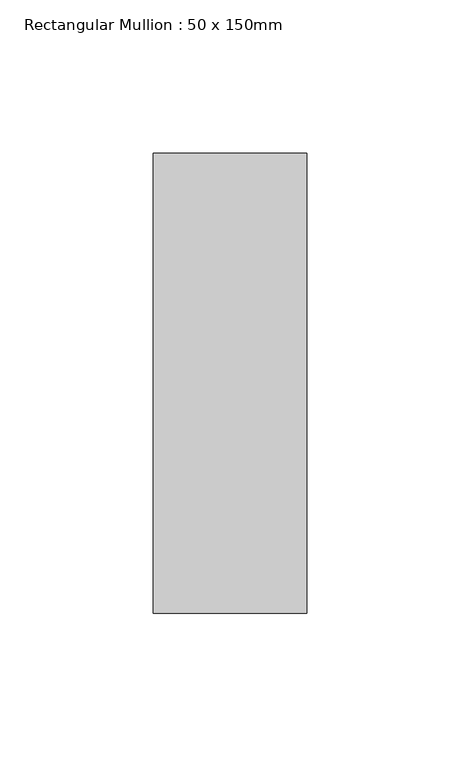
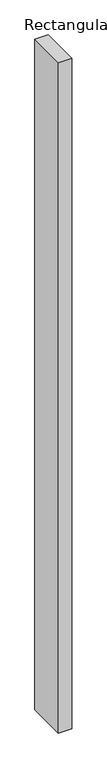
"""IFC4 building model written with IfcOpenShell, lengths in millimetres: member geometry, Rectangular Mullion : 50 x 150mm."""

from ifc_helpers import new_model, si_unit, frame, origin, place, context, project, spatial, polyline, outline, extrude, source, transform, mapped, element, save


def rectangular_mullion_50_x_150mm_5fdcfccd(model_context):
    return source(origin(), model_context, "Body", "SweptSolid", [
        extrude(outline(polyline([(25.0, 75.0), (25.0, -75.0), (-25.0, -75.0), (-25.0, 75.0), (25.0, 75.0)])), frame((0.0, 0.0, -2615.0), z_axis=(0.0, 0.0, 1.0), x_axis=(1.0, 0.0, 0.0)), (0.0, 0.0, 1.0), 2615.0),
    ])


if __name__ == "__main__":
    model = new_model("IFC4")
    model_context = context("Model", 3, world=origin())
    ifc_project = project(units=[si_unit("LENGTHUNIT", "METRE", prefix="MILLI")], contexts=[model_context])
    site = spatial("IfcSite", under=ifc_project)
    building = spatial("IfcBuilding", under=site)
    placement = place(None, origin())
    rectangular_mullion_50_x_150mm_shape = rectangular_mullion_50_x_150mm_5fdcfccd(model_context)
    element("IfcMember", 1, ObjectType="Rectangular Mullion : 50 x 150mm", at=placement, inside=building, context=model_context, shape_type="MappedRepresentation", body=[
        mapped(rectangular_mullion_50_x_150mm_shape, transform((0.0, 0.0, 0.0), x_axis=(1.0, 0.0, 0.0), y_axis=(0.0, 1.0, 0.0), z_axis=(0.0, 0.0, 1.0))),
    ])
    save(model, "model.ifc")
